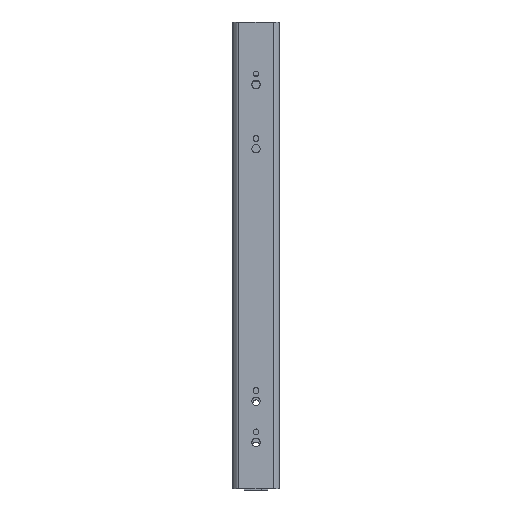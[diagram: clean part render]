
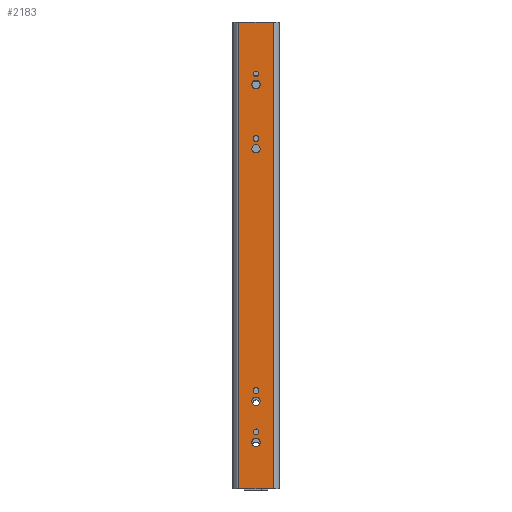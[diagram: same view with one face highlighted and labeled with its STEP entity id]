
A CAD part, left-side view. The second image highlights one B-rep face of the part: STEP entity #2183.
In plain terms, the highlighted planar face has unit normal (-1, 0, 0).
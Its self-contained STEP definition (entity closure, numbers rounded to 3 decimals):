
#29=PLANE('',#2332);
#111=LINE('',#3282,#312);
#112=LINE('',#3285,#313);
#113=LINE('',#3287,#314);
#114=LINE('',#3288,#315);
#312=VECTOR('',#2636,356.);
#313=VECTOR('',#2639,26.15);
#314=VECTOR('',#2640,26.15);
#315=VECTOR('',#2641,356.);
#494=FACE_BOUND('',#698,.T.);
#495=FACE_BOUND('',#699,.T.);
#496=FACE_BOUND('',#700,.T.);
#497=FACE_BOUND('',#701,.T.);
#498=FACE_BOUND('',#702,.T.);
#499=FACE_BOUND('',#703,.T.);
#500=FACE_BOUND('',#704,.T.);
#501=FACE_BOUND('',#705,.T.);
#572=FACE_OUTER_BOUND('',#697,.T.);
#697=EDGE_LOOP('',(#1561,#1562,#1563,#1564));
#698=EDGE_LOOP('',(#1565));
#699=EDGE_LOOP('',(#1566));
#700=EDGE_LOOP('',(#1567));
#701=EDGE_LOOP('',(#1568));
#702=EDGE_LOOP('',(#1569));
#703=EDGE_LOOP('',(#1570));
#704=EDGE_LOOP('',(#1571));
#705=EDGE_LOOP('',(#1572));
#849=CIRCLE('',#2284,3.15);
#851=CIRCLE('',#2287,3.15);
#853=CIRCLE('',#2290,2.25);
#855=CIRCLE('',#2293,2.25);
#857=CIRCLE('',#2296,2.25);
#859=CIRCLE('',#2299,2.25);
#861=CIRCLE('',#2302,3.15);
#863=CIRCLE('',#2305,3.15);
#957=VERTEX_POINT('',#3164);
#959=VERTEX_POINT('',#3169);
#961=VERTEX_POINT('',#3174);
#963=VERTEX_POINT('',#3179);
#965=VERTEX_POINT('',#3184);
#967=VERTEX_POINT('',#3189);
#969=VERTEX_POINT('',#3194);
#971=VERTEX_POINT('',#3199);
#998=VERTEX_POINT('',#3278);
#999=VERTEX_POINT('',#3280);
#1000=VERTEX_POINT('',#3284);
#1001=VERTEX_POINT('',#3286);
#1175=EDGE_CURVE('',#957,#957,#849,.T.);
#1177=EDGE_CURVE('',#959,#959,#851,.T.);
#1179=EDGE_CURVE('',#961,#961,#853,.T.);
#1181=EDGE_CURVE('',#963,#963,#855,.T.);
#1183=EDGE_CURVE('',#965,#965,#857,.T.);
#1185=EDGE_CURVE('',#967,#967,#859,.T.);
#1187=EDGE_CURVE('',#969,#969,#861,.T.);
#1189=EDGE_CURVE('',#971,#971,#863,.T.);
#1229=EDGE_CURVE('',#998,#999,#111,.T.);
#1230=EDGE_CURVE('',#1000,#998,#112,.T.);
#1231=EDGE_CURVE('',#1001,#999,#113,.T.);
#1232=EDGE_CURVE('',#1000,#1001,#114,.T.);
#1561=ORIENTED_EDGE('',*,*,#1230,.T.);
#1562=ORIENTED_EDGE('',*,*,#1229,.T.);
#1563=ORIENTED_EDGE('',*,*,#1231,.F.);
#1564=ORIENTED_EDGE('',*,*,#1232,.F.);
#1565=ORIENTED_EDGE('',*,*,#1175,.T.);
#1566=ORIENTED_EDGE('',*,*,#1177,.T.);
#1567=ORIENTED_EDGE('',*,*,#1179,.T.);
#1568=ORIENTED_EDGE('',*,*,#1181,.T.);
#1569=ORIENTED_EDGE('',*,*,#1183,.T.);
#1570=ORIENTED_EDGE('',*,*,#1185,.T.);
#1571=ORIENTED_EDGE('',*,*,#1187,.T.);
#1572=ORIENTED_EDGE('',*,*,#1189,.T.);
#2183=ADVANCED_FACE('',(#572,#494,#495,#496,#497,#498,#499,#500,#501),#29,
 .T.);
#2284=AXIS2_PLACEMENT_3D('',#3165,#2513,#2514);
#2287=AXIS2_PLACEMENT_3D('',#3170,#2519,#2520);
#2290=AXIS2_PLACEMENT_3D('',#3175,#2525,#2526);
#2293=AXIS2_PLACEMENT_3D('',#3180,#2531,#2532);
#2296=AXIS2_PLACEMENT_3D('',#3185,#2537,#2538);
#2299=AXIS2_PLACEMENT_3D('',#3190,#2543,#2544);
#2302=AXIS2_PLACEMENT_3D('',#3195,#2549,#2550);
#2305=AXIS2_PLACEMENT_3D('',#3200,#2555,#2556);
#2332=AXIS2_PLACEMENT_3D('',#3283,#2637,#2638);
#2513=DIRECTION('center_axis',(1.,0.,0.));
#2514=DIRECTION('ref_axis',(0.,0.,-1.));
#2519=DIRECTION('center_axis',(1.,0.,0.));
#2520=DIRECTION('ref_axis',(0.,0.,-1.));
#2525=DIRECTION('center_axis',(1.,0.,0.));
#2526=DIRECTION('ref_axis',(0.,0.,-1.));
#2531=DIRECTION('center_axis',(1.,0.,0.));
#2532=DIRECTION('ref_axis',(0.,0.,-1.));
#2537=DIRECTION('center_axis',(1.,0.,0.));
#2538=DIRECTION('ref_axis',(0.,0.,-1.));
#2543=DIRECTION('center_axis',(1.,0.,0.));
#2544=DIRECTION('ref_axis',(0.,0.,-1.));
#2549=DIRECTION('center_axis',(1.,0.,0.));
#2550=DIRECTION('ref_axis',(0.,0.,-1.));
#2555=DIRECTION('center_axis',(1.,0.,0.));
#2556=DIRECTION('ref_axis',(0.,0.,-1.));
#2636=DIRECTION('',(0.,0.,1.));
#2637=DIRECTION('center_axis',(-1.,0.,0.));
#2638=DIRECTION('ref_axis',(0.,-1.,0.));
#2639=DIRECTION('',(0.,-1.,0.));
#2640=DIRECTION('',(0.,-1.,0.));
#2641=DIRECTION('',(0.,0.,1.));
#3164=CARTESIAN_POINT('',(0.,0.,69.85));
#3165=CARTESIAN_POINT('Origin',(0.,0.,
66.7));
#3169=CARTESIAN_POINT('',(0.,0.,311.45));
#3170=CARTESIAN_POINT('Origin',(0.,0.,
308.3));
#3174=CARTESIAN_POINT('',(0.,0.,45.55));
#3175=CARTESIAN_POINT('Origin',(0.,0.,
43.3));
#3179=CARTESIAN_POINT('',(0.,0.,269.55));
#3180=CARTESIAN_POINT('Origin',(0.,0.,
267.3));
#3184=CARTESIAN_POINT('',(0.,0.,76.95));
#3185=CARTESIAN_POINT('Origin',(0.,0.,
74.7));
#3189=CARTESIAN_POINT('',(0.,0.,318.55));
#3190=CARTESIAN_POINT('Origin',(0.,0.,
316.3));
#3194=CARTESIAN_POINT('',(0.,0.,262.45));
#3195=CARTESIAN_POINT('Origin',(0.,0.,
259.3));
#3199=CARTESIAN_POINT('',(0.,0.,38.45));
#3200=CARTESIAN_POINT('Origin',(0.,0.,
35.3));
#3278=CARTESIAN_POINT('',(0.,-13.075,0.));
#3280=CARTESIAN_POINT('',(0.,-13.075,356.));
#3282=CARTESIAN_POINT('',(0.,-13.075,0.));
#3283=CARTESIAN_POINT('Origin',(0.,13.075,0.));
#3284=CARTESIAN_POINT('',(0.,13.075,0.));
#3285=CARTESIAN_POINT('',(0.,13.075,0.));
#3286=CARTESIAN_POINT('',(0.,13.075,356.));
#3287=CARTESIAN_POINT('',(0.,13.075,356.));
#3288=CARTESIAN_POINT('',(0.,13.075,0.));
